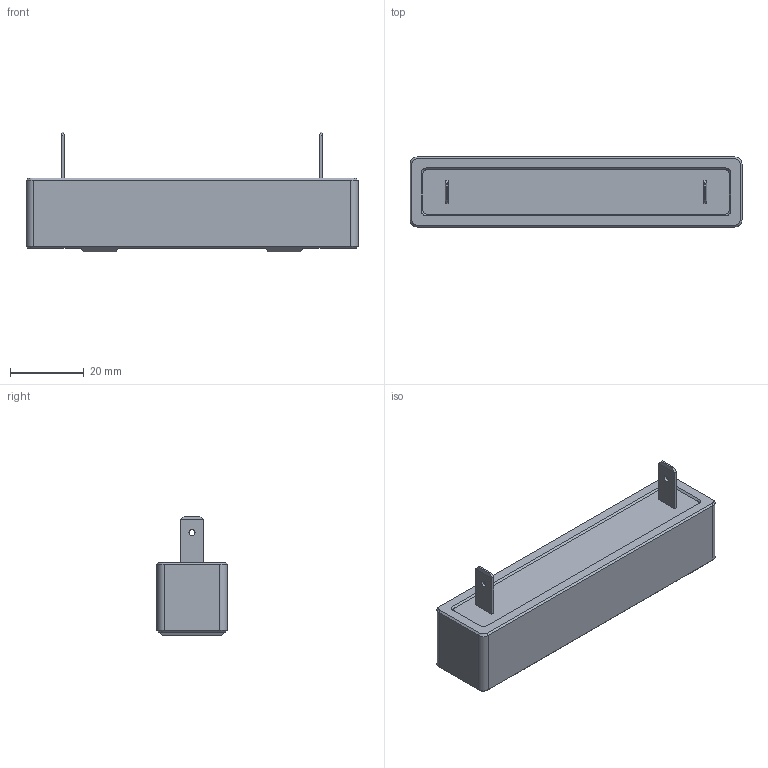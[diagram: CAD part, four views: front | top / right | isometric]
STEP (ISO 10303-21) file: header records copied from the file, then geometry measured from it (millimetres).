
FILE_DESCRIPTION(/* description */ (''),/* implementation_level */ '2;1');
FILE_NAME(/* name */ '',/* time_stamp */ '2025-12-16T13:56:25+09:00',/* author */ (''),/* organization */ (''),/* preprocessor_version */ 'ST-DEVELOPER v20.1',/* originating_system */ 'Autodesk Translation Framework v14.21.0.0',/* authorisation */ '');
FILE_SCHEMA (('AUTOMOTIVE_DESIGN { 1 0 10303 214 3 1 1 }'));
Length unit declared in the file: millimetre
Products named in the file (1): (未保存)
Bounding box: 90 x 19 x 32.5 mm (x, y, z)
Volume: 32297.7 mm3; surface area: 7820 mm2
Topology: 1 solids, 1 shells, 63 faces, 150 edges, 92 vertices
Faces by surface type: plane 45, cone 12, cylinder 6
Full cylindrical faces by diameter (mm): 1.65 x2
Entity records: 1863 total; most frequent: DIRECTION 306, CARTESIAN_POINT 306, ORIENTED_EDGE 300, EDGE_CURVE 150, LINE 122, VECTOR 122, VERTEX_POINT 92, AXIS2_PLACEMENT_3D 92
